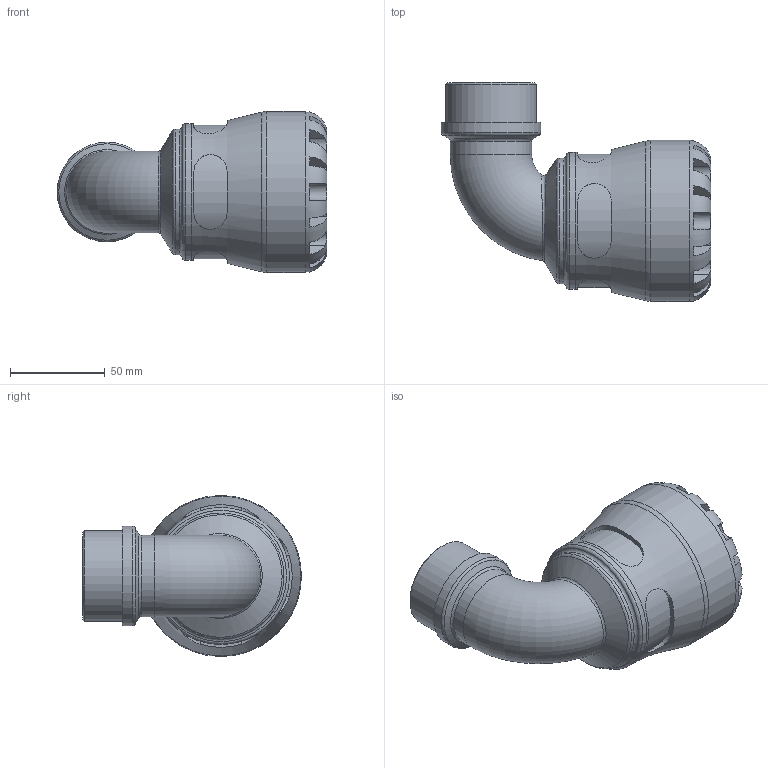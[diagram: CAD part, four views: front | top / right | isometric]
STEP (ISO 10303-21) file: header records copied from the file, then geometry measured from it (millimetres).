
FILE_DESCRIPTION(/* description */ ('PLASSON 90° ELBOW WITH MALE INTEGRAL BRASS 50X1.1/2" SERIES 1'),/* implementation_level */ '2;1');
FILE_NAME(/* name */ 'C:\Dropbox\KIMPROJECTS-Inventor\99-16-3568-Processing\1077\107700050015_197700050015.ipt.stp',/* time_stamp */ '2017-01-22T11:54:42+02:00',/* author */ ('KIM'),/* organization */ (''),/* preprocessor_version */ 'ST-DEVELOPER v15.6',/* originating_system */ 'Autodesk Inventor 2015',/* authorisation */ '');
FILE_SCHEMA (('AUTOMOTIVE_DESIGN { 1 0 10303 214 3 1 1 }'));
Length unit declared in the file: millimetre
Products named in the file (1): 107700050015_197700050015
Bounding box: 142.29 x 115.5 x 85 mm (x, y, z)
Volume: 298589 mm3; surface area: 65458.5 mm2
Topology: 1 solids, 1 shells, 112 faces, 275 edges, 170 vertices
Faces by surface type: plane 60, cylinder 37, torus 9, cone 3, bspline 3
Full cylindrical faces by diameter (mm): 33.462 x2, 43.023 x1, 47.803 x1, 50 x1, 52.583 x1, 66.3 x1, 72.25 x1, 85 x1
Entity records: 4385 total; most frequent: CARTESIAN_POINT 1809, DIRECTION 495, ORIENTED_EDGE 492, EDGE_CURVE 246, AXIS2_PLACEMENT_3D 207, VERTEX_POINT 163, EDGE_LOOP 141, STYLED_ITEM 113
